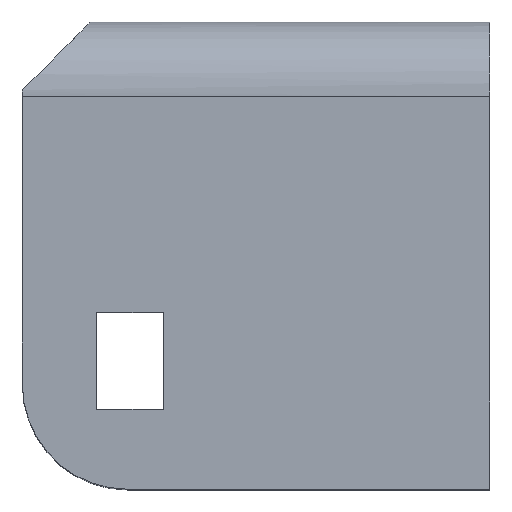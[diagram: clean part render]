
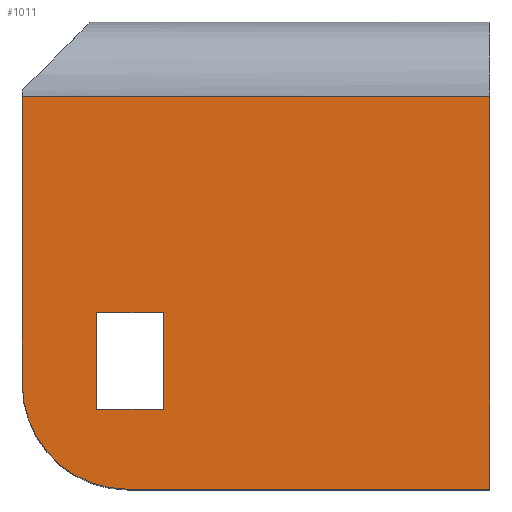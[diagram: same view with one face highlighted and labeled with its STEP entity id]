
A CAD part, top view. The second image highlights one B-rep face of the part: STEP entity #1011.
In plain terms, the highlighted planar face has unit normal (0, 0, 1).
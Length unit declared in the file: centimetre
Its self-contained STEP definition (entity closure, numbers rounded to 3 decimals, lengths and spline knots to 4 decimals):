
#3 = CARTESIAN_POINT ( 'NONE',  ( 1000., 0., 1000. ) ) ;
#4 = LINE ( 'NONE', #44, #724 ) ;
#34 = EDGE_CURVE ( 'NONE', #410, #1128, #1201, .T. ) ;
#44 = CARTESIAN_POINT ( 'NONE',  ( 158.6061, 379.1525, 1000. ) ) ;
#123 = DIRECTION ( 'NONE',  ( 1., 0., 0. ) ) ;
#147 = LINE ( 'NONE', #592, #846 ) ;
#158 = CARTESIAN_POINT ( 'NONE',  ( 1000., 1000., 1000. ) ) ;
#159 = CARTESIAN_POINT ( 'NONE',  ( 158.6061, 171.5203, 1000. ) ) ;
#174 = EDGE_LOOP ( 'NONE', ( #792, #948, #1206, #184 ) ) ;
#176 = VECTOR ( 'NONE', #450, 100. ) ;
#184 = ORIENTED_EDGE ( 'NONE', *, *, #1057, .T. ) ;
#218 = VECTOR ( 'NONE', #345, 100. ) ;
#259 = VECTOR ( 'NONE', #1119, 100. ) ;
#261 = EDGE_CURVE ( 'NONE', #316, #915, #334, .T. ) ;
#316 = VERTEX_POINT ( 'NONE', #430 ) ;
#334 = CIRCLE ( 'NONE', #1181, 224.851 ) ;
#345 = DIRECTION ( 'NONE',  ( 1., 0., 0. ) ) ;
#346 = EDGE_CURVE ( 'NONE', #915, #899, #526, .T. ) ;
#356 = VECTOR ( 'NONE', #739, 100. ) ;
#360 = CARTESIAN_POINT ( 'NONE',  ( 0., 840.5963, 1000. ) ) ;
#383 = CARTESIAN_POINT ( 'NONE',  ( 1000., 840.5963, 1000. ) ) ;
#410 = VERTEX_POINT ( 'NONE', #159 ) ;
#425 = VECTOR ( 'NONE', #813, 100. ) ;
#430 = CARTESIAN_POINT ( 'NONE',  ( 0., 224.851, 1000. ) ) ;
#450 = DIRECTION ( 'NONE',  ( 0., -1., 0. ) ) ;
#467 = ORIENTED_EDGE ( 'NONE', *, *, #877, .T. ) ;
#472 = PLANE ( 'NONE',  #596 ) ;
#476 = DIRECTION ( 'NONE',  ( 0., 0., 1. ) ) ;
#492 = CARTESIAN_POINT ( 'NONE',  ( 224.851, 224.851, 1000. ) ) ;
#496 = DIRECTION ( 'NONE',  ( 1., 0., 0. ) ) ;
#526 = LINE ( 'NONE', #641, #218 ) ;
#541 = LINE ( 'NONE', #158, #975 ) ;
#547 = VERTEX_POINT ( 'NONE', #360 ) ;
#592 = CARTESIAN_POINT ( 'NONE',  ( 301.9745, 171.5203, 1000. ) ) ;
#596 = AXIS2_PLACEMENT_3D ( 'NONE', #1235, #476, #1244 ) ;
#604 = DIRECTION ( 'NONE',  ( 0., 0., 1. ) ) ;
#626 = CARTESIAN_POINT ( 'NONE',  ( 301.9745, 379.1525, 1000. ) ) ;
#638 = EDGE_CURVE ( 'NONE', #858, #1097, #147, .T. ) ;
#641 = CARTESIAN_POINT ( 'NONE',  ( 0., 0., 1000. ) ) ;
#654 = EDGE_CURVE ( 'NONE', #1128, #858, #4, .T. ) ;
#658 = FACE_BOUND ( 'NONE', #174, .T. ) ;
#724 = VECTOR ( 'NONE', #496, 100. ) ;
#735 = LINE ( 'NONE', #1210, #176 ) ;
#736 = CARTESIAN_POINT ( 'NONE',  ( 145.6107, 840.5963, 1000. ) ) ;
#739 = DIRECTION ( 'NONE',  ( 0., 1., 0. ) ) ;
#745 = DIRECTION ( 'NONE',  ( 0., 1., 0. ) ) ;
#779 = ORIENTED_EDGE ( 'NONE', *, *, #1228, .T. ) ;
#792 = ORIENTED_EDGE ( 'NONE', *, *, #34, .T. ) ;
#813 = DIRECTION ( 'NONE',  ( -1., 0., 0. ) ) ;
#828 = ORIENTED_EDGE ( 'NONE', *, *, #261, .T. ) ;
#840 = EDGE_CURVE ( 'NONE', #899, #983, #541, .T. ) ;
#846 = VECTOR ( 'NONE', #979, 100. ) ;
#858 = VERTEX_POINT ( 'NONE', #626 ) ;
#877 = EDGE_CURVE ( 'NONE', #983, #547, #1212, .T. ) ;
#887 = CARTESIAN_POINT ( 'NONE',  ( 158.6061, 171.5203, 1000. ) ) ;
#894 = ORIENTED_EDGE ( 'NONE', *, *, #346, .T. ) ;
#899 = VERTEX_POINT ( 'NONE', #3 ) ;
#902 = ORIENTED_EDGE ( 'NONE', *, *, #840, .T. ) ;
#911 = CARTESIAN_POINT ( 'NONE',  ( 158.6061, 379.1525, 1000. ) ) ;
#915 = VERTEX_POINT ( 'NONE', #1230 ) ;
#930 = CARTESIAN_POINT ( 'NONE',  ( 158.6061, 171.5203, 1000. ) ) ;
#937 = EDGE_LOOP ( 'NONE', ( #902, #467, #779, #828, #894 ) ) ;
#948 = ORIENTED_EDGE ( 'NONE', *, *, #654, .T. ) ;
#958 = FACE_OUTER_BOUND ( 'NONE', #937, .T. ) ;
#975 = VECTOR ( 'NONE', #745, 100. ) ;
#979 = DIRECTION ( 'NONE',  ( 0., -1., 0. ) ) ;
#983 = VERTEX_POINT ( 'NONE', #383 ) ;
#1011 = ADVANCED_FACE ( 'NONE', ( #658, #958 ), #472, .T. ) ;
#1057 = EDGE_CURVE ( 'NONE', #1097, #410, #1098, .T. ) ;
#1080 = CARTESIAN_POINT ( 'NONE',  ( 301.9745, 171.5203, 1000. ) ) ;
#1097 = VERTEX_POINT ( 'NONE', #1080 ) ;
#1098 = LINE ( 'NONE', #887, #425 ) ;
#1119 = DIRECTION ( 'NONE',  ( -1., 0., 0. ) ) ;
#1128 = VERTEX_POINT ( 'NONE', #911 ) ;
#1181 = AXIS2_PLACEMENT_3D ( 'NONE', #492, #604, #123 ) ;
#1201 = LINE ( 'NONE', #930, #356 ) ;
#1206 = ORIENTED_EDGE ( 'NONE', *, *, #638, .T. ) ;
#1210 = CARTESIAN_POINT ( 'NONE',  ( 0., 1000., 1000. ) ) ;
#1212 = LINE ( 'NONE', #736, #259 ) ;
#1228 = EDGE_CURVE ( 'NONE', #547, #316, #735, .T. ) ;
#1230 = CARTESIAN_POINT ( 'NONE',  ( 224.851, 0., 1000. ) ) ;
#1235 = CARTESIAN_POINT ( 'NONE',  ( 0., 0., 1000. ) ) ;
#1244 = DIRECTION ( 'NONE',  ( 1., 0., 0. ) ) ;
